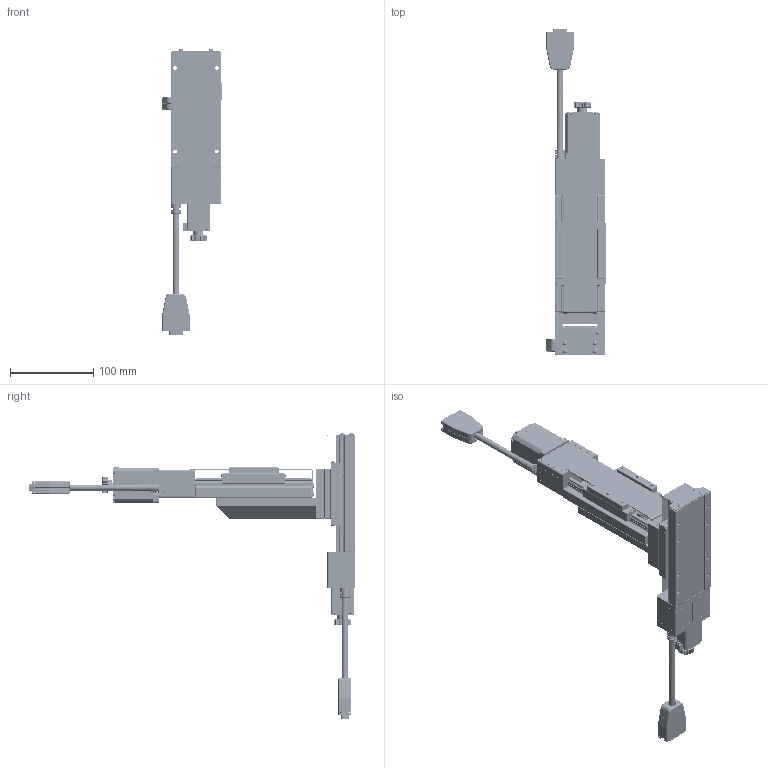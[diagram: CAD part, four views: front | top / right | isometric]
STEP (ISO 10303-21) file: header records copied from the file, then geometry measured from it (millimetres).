
FILE_DESCRIPTION (( 'STEP AP203' ), '1' );
FILE_NAME ('CXZC6050-S2?N.STEP', '2023-10-02T07:05:34', ( '' ), ( '' ), 'SwSTEP 2.0', 'SolidWorks 2019', '' );
FILE_SCHEMA (( 'CONFIG_CONTROL_DESIGN' ));
Products named in the file (8): Group2^CXC6050-S2_N(2023_s__)_defeature_GMT.STEP_GMT; CZLC6050-S2?N.STEP; Group2^CZLC6050-S2_N(2023_s__)_defeature_GMT.STEP_GMT; CXZC6050-S2?N; Group1^CXC6050-S2_N(2023_s__)_defeature_GMT.STEP_GMT; CXC6050-S2?N.STEP; Group1^CZLC6050-S2_N(2023_s__)_defeature_GMT.STEP_GMT; CXN60_GMT.STEP_GMT
Assembly tree (8 placements, depth 3):
  CXZC6050-S2?N
    CXC6050-S2?N.STEP
      Group1^CXC6050-S2_N(2023_s__)_defeature_GMT.STEP_GMT
      Group2^CXC6050-S2_N(2023_s__)_defeature_GMT.STEP_GMT
      CXN60_GMT.STEP_GMT
    CZLC6050-S2?N.STEP
      Group1^CZLC6050-S2_N(2023_s__)_defeature_GMT.STEP_GMT
      Group2^CZLC6050-S2_N(2023_s__)_defeature_GMT.STEP_GMT
      CXN60_GMT.STEP_GMT
Bounding box: 71.5 x 391.6 x 342.25 mm (x, y, z)
Volume: 97003.7 mm3; surface area: 272045.6 mm2
Topology: 41 solids, 89 shells, 8634 faces, 22561 edges, 14013 vertices
Faces by surface type: plane 3388, cylinder 2544, cone 1056, torus 828, bspline 532, sphere 286
Entity records: 318602 total; most frequent: CARTESIAN_POINT 136165, ORIENTED_EDGE 43637, DIRECTION 29076, EDGE_CURVE 22061, VERTEX_POINT 13883, B_SPLINE_CURVE_WITH_KNOTS 13666, AXIS2_PLACEMENT_3D 12864, EDGE_LOOP 8956
